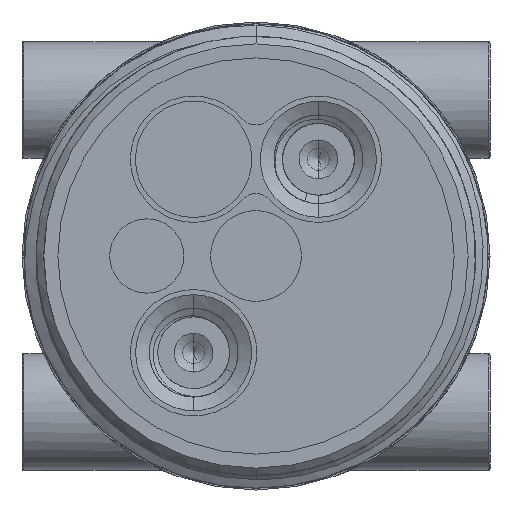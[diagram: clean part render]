
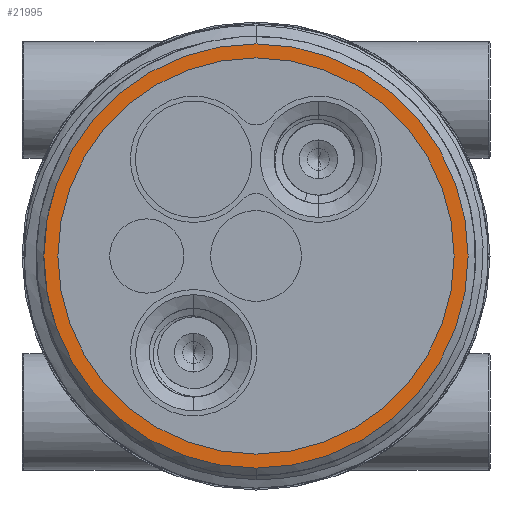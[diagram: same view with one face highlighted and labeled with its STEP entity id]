
A CAD part, left-side view. The second image highlights one B-rep face of the part: STEP entity #21995.
In plain terms, the highlighted planar face has unit normal (-1, 0, 0).
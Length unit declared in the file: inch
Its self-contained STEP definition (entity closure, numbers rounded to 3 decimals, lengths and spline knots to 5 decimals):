
#177 = CIRCLE ( 'NONE', #15648, 0.3175 ) ;
#427 = CARTESIAN_POINT ( 'NONE',  ( 0.05, 0., 0.34 ) ) ;
#525 = CARTESIAN_POINT ( 'NONE',  ( 0.05, 0., 0. ) ) ;
#849 = VERTEX_POINT ( 'NONE', #16730 ) ;
#1096 = VERTEX_POINT ( 'NONE', #13056 ) ;
#1331 = ORIENTED_EDGE ( 'NONE', *, *, #23450, .F. ) ;
#1357 = EDGE_CURVE ( 'NONE', #13367, #1096, #15508, .T. ) ;
#1506 = DIRECTION ( 'NONE',  ( 0., 0., -1. ) ) ;
#1619 = CARTESIAN_POINT ( 'NONE',  ( 0.05, 0.3175, 0. ) ) ;
#1796 = CARTESIAN_POINT ( 'NONE',  ( 0.05, 0., 0. ) ) ;
#2339 = AXIS2_PLACEMENT_3D ( 'NONE', #1619, #14727, #1506 ) ;
#3174 = EDGE_CURVE ( 'NONE', #849, #10861, #177, .T. ) ;
#3610 = DIRECTION ( 'NONE',  ( 0., 0., 1. ) ) ;
#5098 = DIRECTION ( 'NONE',  ( -1., 0., 0. ) ) ;
#5391 = PLANE ( 'NONE',  #2339 ) ;
#5747 = FACE_OUTER_BOUND ( 'NONE', #20236, .T. ) ;
#6114 = DIRECTION ( 'NONE',  ( 0., 0., 1. ) ) ;
#7552 = ORIENTED_EDGE ( 'NONE', *, *, #1357, .T. ) ;
#8948 = AXIS2_PLACEMENT_3D ( 'NONE', #15357, #19125, #9666 ) ;
#9136 = EDGE_CURVE ( 'NONE', #1096, #13367, #9207, .T. ) ;
#9207 = CIRCLE ( 'NONE', #19662, 0.34 ) ;
#9666 = DIRECTION ( 'NONE',  ( 0., 0., 1. ) ) ;
#10861 = VERTEX_POINT ( 'NONE', #20858 ) ;
#11271 = DIRECTION ( 'NONE',  ( -1., 0., 0. ) ) ;
#12143 = CARTESIAN_POINT ( 'NONE',  ( 0.05, 0., 0. ) ) ;
#13056 = CARTESIAN_POINT ( 'NONE',  ( 0.05, 0., -0.34 ) ) ;
#13367 = VERTEX_POINT ( 'NONE', #427 ) ;
#14727 = DIRECTION ( 'NONE',  ( 1., 0., 0. ) ) ;
#14731 = ORIENTED_EDGE ( 'NONE', *, *, #9136, .T. ) ;
#15357 = CARTESIAN_POINT ( 'NONE',  ( 0.05, 0., 0. ) ) ;
#15508 = CIRCLE ( 'NONE', #8948, 0.34 ) ;
#15648 = AXIS2_PLACEMENT_3D ( 'NONE', #12143, #5098, #17844 ) ;
#15850 = ORIENTED_EDGE ( 'NONE', *, *, #3174, .F. ) ;
#16730 = CARTESIAN_POINT ( 'NONE',  ( 0.05, 0., -0.3175 ) ) ;
#16790 = FACE_BOUND ( 'NONE', #18427, .T. ) ;
#16856 = AXIS2_PLACEMENT_3D ( 'NONE', #525, #22519, #6114 ) ;
#17844 = DIRECTION ( 'NONE',  ( 0., 0., 1. ) ) ;
#18427 = EDGE_LOOP ( 'NONE', ( #1331, #15850 ) ) ;
#19125 = DIRECTION ( 'NONE',  ( -1., 0., 0. ) ) ;
#19662 = AXIS2_PLACEMENT_3D ( 'NONE', #1796, #11271, #3610 ) ;
#20236 = EDGE_LOOP ( 'NONE', ( #7552, #14731 ) ) ;
#20343 = CIRCLE ( 'NONE', #16856, 0.3175 ) ;
#20858 = CARTESIAN_POINT ( 'NONE',  ( 0.05, 0., 0.3175 ) ) ;
#21995 = ADVANCED_FACE ( 'NONE', ( #16790, #5747 ), #5391, .F. ) ;
#22519 = DIRECTION ( 'NONE',  ( -1., 0., 0. ) ) ;
#23450 = EDGE_CURVE ( 'NONE', #10861, #849, #20343, .T. ) ;
